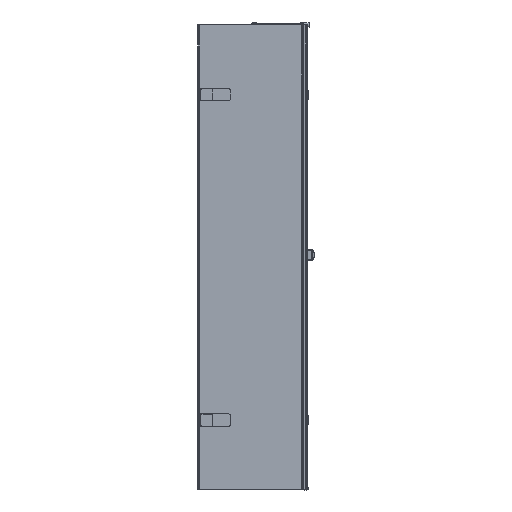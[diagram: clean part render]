
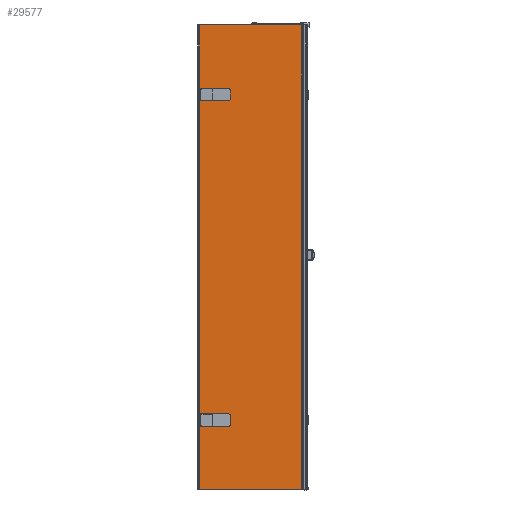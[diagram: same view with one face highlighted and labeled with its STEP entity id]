
A CAD part, left-side view. The second image highlights one B-rep face of the part: STEP entity #29577.
In plain terms, the highlighted planar face has unit normal (-1, 0, 0).
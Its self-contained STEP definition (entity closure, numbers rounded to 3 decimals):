
#495=LINE($,#41362,#3012);
#1831=LINE($,#62116,#4348);
#1834=LINE($,#62132,#4351);
#1837=LINE($,#62137,#4354);
#1840=LINE($,#62141,#4357);
#1841=LINE($,#62142,#4358);
#1876=LINE($,#62292,#4393);
#1899=LINE($,#62387,#4416);
#1921=LINE($,#62473,#4438);
#1922=LINE($,#62475,#4439);
#1923=LINE($,#62477,#4440);
#1924=LINE($,#62481,#4441);
#1925=LINE($,#62484,#4442);
#1926=LINE($,#62486,#4443);
#1927=LINE($,#62488,#4444);
#3012=VECTOR($,#33236,441.4);
#4348=VECTOR($,#37472,40.);
#4351=VECTOR($,#37489,40.);
#4354=VECTOR($,#37494,34.);
#4357=VECTOR($,#37499,26.);
#4358=VECTOR($,#37500,26.);
#4393=VECTOR($,#37589,1.019);
#4416=VECTOR($,#37652,1998.);
#4438=VECTOR($,#37744,26.);
#4439=VECTOR($,#37745,26.);
#4440=VECTOR($,#37746,40.);
#4441=VECTOR($,#37749,34.);
#4442=VECTOR($,#37752,40.);
#4443=VECTOR($,#37753,2000.);
#4444=VECTOR($,#37754,440.419);
#6335=PLANE($,#31945);
#6967=FACE_BOUND($,#9741,.T.);
#6968=FACE_BOUND($,#9742,.T.);
#6969=FACE_BOUND($,#9743,.T.);
#9741=EDGE_LOOP($,(#23108,#23109,#23110,#23111,#23112,#23113,#23114));
#9742=EDGE_LOOP($,(#23115,#23116,#23117,#23118,#23119,#23120,#23121));
#9743=EDGE_LOOP($,(#23122,#23123,#23124,#23125,#23126,#23127));
#11267=CIRCLE($,#31853,9.);
#11271=CIRCLE($,#31860,9.);
#11309=CIRCLE($,#31946,9.);
#11310=CIRCLE($,#31947,9.);
#11311=CIRCLE($,#31948,2.);
#11761=VERTEX_POINT($,#41359);
#11762=VERTEX_POINT($,#41361);
#13295=VERTEX_POINT($,#62106);
#13296=VERTEX_POINT($,#62108);
#13298=VERTEX_POINT($,#62114);
#13299=VERTEX_POINT($,#62118);
#13302=VERTEX_POINT($,#62125);
#13303=VERTEX_POINT($,#62127);
#13304=VERTEX_POINT($,#62131);
#13343=VERTEX_POINT($,#62282);
#13347=VERTEX_POINT($,#62290);
#13391=VERTEX_POINT($,#62471);
#13392=VERTEX_POINT($,#62472);
#13393=VERTEX_POINT($,#62474);
#13394=VERTEX_POINT($,#62476);
#13395=VERTEX_POINT($,#62478);
#13396=VERTEX_POINT($,#62480);
#13397=VERTEX_POINT($,#62482);
#13398=VERTEX_POINT($,#62485);
#13399=VERTEX_POINT($,#62487);
#14386=EDGE_CURVE($,#11761,#11762,#495,.T.);
#16671=EDGE_CURVE($,#13295,#13296,#11267,.T.);
#16675=EDGE_CURVE($,#13298,#13295,#1831,.T.);
#16680=EDGE_CURVE($,#13302,#13303,#11271,.T.);
#16682=EDGE_CURVE($,#13303,#13304,#1834,.T.);
#16685=EDGE_CURVE($,#13296,#13302,#1837,.T.);
#16688=EDGE_CURVE($,#13304,#13299,#1840,.T.);
#16689=EDGE_CURVE($,#13299,#13298,#1841,.T.);
#16742=EDGE_CURVE($,#13347,#13343,#1876,.T.);
#16776=EDGE_CURVE($,#11762,#13347,#1899,.T.);
#16817=EDGE_CURVE($,#13391,#13392,#1921,.T.);
#16818=EDGE_CURVE($,#13393,#13391,#1922,.T.);
#16819=EDGE_CURVE($,#13394,#13393,#1923,.T.);
#16820=EDGE_CURVE($,#13395,#13394,#11309,.T.);
#16821=EDGE_CURVE($,#13396,#13395,#1924,.T.);
#16822=EDGE_CURVE($,#13397,#13396,#11310,.T.);
#16823=EDGE_CURVE($,#13392,#13397,#1925,.T.);
#16824=EDGE_CURVE($,#13398,#11761,#1926,.T.);
#16825=EDGE_CURVE($,#13398,#13399,#1927,.T.);
#16826=EDGE_CURVE($,#13343,#13399,#11311,.T.);
#23108=ORIENTED_EDGE($,*,*,#16817,.F.);
#23109=ORIENTED_EDGE($,*,*,#16818,.F.);
#23110=ORIENTED_EDGE($,*,*,#16819,.F.);
#23111=ORIENTED_EDGE($,*,*,#16820,.F.);
#23112=ORIENTED_EDGE($,*,*,#16821,.F.);
#23113=ORIENTED_EDGE($,*,*,#16822,.F.);
#23114=ORIENTED_EDGE($,*,*,#16823,.F.);
#23115=ORIENTED_EDGE($,*,*,#16689,.F.);
#23116=ORIENTED_EDGE($,*,*,#16688,.F.);
#23117=ORIENTED_EDGE($,*,*,#16682,.F.);
#23118=ORIENTED_EDGE($,*,*,#16680,.F.);
#23119=ORIENTED_EDGE($,*,*,#16685,.F.);
#23120=ORIENTED_EDGE($,*,*,#16671,.F.);
#23121=ORIENTED_EDGE($,*,*,#16675,.F.);
#23122=ORIENTED_EDGE($,*,*,#16776,.F.);
#23123=ORIENTED_EDGE($,*,*,#14386,.F.);
#23124=ORIENTED_EDGE($,*,*,#16824,.F.);
#23125=ORIENTED_EDGE($,*,*,#16825,.T.);
#23126=ORIENTED_EDGE($,*,*,#16826,.F.);
#23127=ORIENTED_EDGE($,*,*,#16742,.F.);
#29577=ADVANCED_FACE($,(#6967,#6968,#6969),#6335,.F.);
#31853=AXIS2_PLACEMENT_3D($,#62109,#37465,#37466);
#31860=AXIS2_PLACEMENT_3D($,#62128,#37484,#37485);
#31945=AXIS2_PLACEMENT_3D($,#62470,#37742,#37743);
#31946=AXIS2_PLACEMENT_3D($,#62479,#37747,#37748);
#31947=AXIS2_PLACEMENT_3D($,#62483,#37750,#37751);
#31948=AXIS2_PLACEMENT_3D($,#62489,#37755,#37756);
#33236=DIRECTION($,(0.,-1.,0.));
#37465=DIRECTION('center_axis',(-1.,0.,0.));
#37466=DIRECTION('ref_axis',(0.,-0.707,-0.707));
#37472=DIRECTION($,(0.,-1.,0.));
#37484=DIRECTION('center_axis',(-1.,0.,0.));
#37485=DIRECTION('ref_axis',(0.,-0.707,0.707));
#37489=DIRECTION($,(0.,1.,0.));
#37494=DIRECTION($,(0.,0.,1.));
#37499=DIRECTION($,(0.,0.,-1.));
#37500=DIRECTION($,(0.,0.,-1.));
#37589=DIRECTION($,(0.,-1.,0.));
#37652=DIRECTION($,(0.,0.,-1.));
#37742=DIRECTION('center_axis',(1.,0.,0.));
#37743=DIRECTION('ref_axis',(0.,-1.,0.));
#37744=DIRECTION($,(0.,0.,-1.));
#37745=DIRECTION($,(0.,0.,-1.));
#37746=DIRECTION($,(0.,1.,0.));
#37747=DIRECTION('center_axis',(-1.,0.,0.));
#37748=DIRECTION('ref_axis',(0.,-0.707,0.707));
#37749=DIRECTION($,(0.,0.,1.));
#37750=DIRECTION('center_axis',(-1.,0.,0.));
#37751=DIRECTION('ref_axis',(0.,-0.707,-0.707));
#37752=DIRECTION($,(0.,-1.,0.));
#37753=DIRECTION($,(0.,0.,1.));
#37754=DIRECTION($,(0.,-1.,0.));
#37755=DIRECTION('center_axis',(-1.,0.,0.));
#37756=DIRECTION('ref_axis',(0.,0.707,0.707));
#41359=CARTESIAN_POINT('',(1404.59,366.875,1485.944));
#41361=CARTESIAN_POINT('',(1404.59,-74.525,1485.944));
#41362=CARTESIAN_POINT($,(1404.59,371.875,1485.944));
#62106=CARTESIAN_POINT('',(1404.59,243.875,1159.944));
#62108=CARTESIAN_POINT('',(1404.59,234.875,1168.944));
#62109=CARTESIAN_POINT('Origin',(1404.59,243.875,1168.944));
#62114=CARTESIAN_POINT('',(1404.59,283.875,1159.944));
#62116=CARTESIAN_POINT($,(1404.59,327.875,1159.944));
#62118=CARTESIAN_POINT('',(1404.59,283.875,1185.944));
#62125=CARTESIAN_POINT('',(1404.59,234.875,1202.944));
#62127=CARTESIAN_POINT('',(1404.59,243.875,1211.944));
#62128=CARTESIAN_POINT('Origin',(1404.59,243.875,1202.944));
#62131=CARTESIAN_POINT('',(1404.59,283.875,1211.944));
#62132=CARTESIAN_POINT($,(1404.59,316.375,1211.944));
#62137=CARTESIAN_POINT($,(1404.59,234.875,1348.944));
#62141=CARTESIAN_POINT($,(1404.59,283.875,1348.944));
#62142=CARTESIAN_POINT($,(1404.59,283.875,1348.944));
#62282=CARTESIAN_POINT('',(1404.59,-75.544,-512.056));
#62290=CARTESIAN_POINT('',(1404.59,-74.525,-512.056));
#62292=CARTESIAN_POINT($,(1404.59,146.968,-512.056));
#62387=CARTESIAN_POINT($,(1404.59,-74.525,1485.944));
#62470=CARTESIAN_POINT('Origin',(1404.59,371.875,1485.944));
#62471=CARTESIAN_POINT('',(1404.59,283.875,-214.056));
#62472=CARTESIAN_POINT('',(1404.59,283.875,-240.056));
#62473=CARTESIAN_POINT($,(1404.59,283.875,648.944));
#62474=CARTESIAN_POINT('',(1404.59,283.875,-188.056));
#62475=CARTESIAN_POINT($,(1404.59,283.875,648.944));
#62476=CARTESIAN_POINT('',(1404.59,243.875,-188.056));
#62477=CARTESIAN_POINT($,(1404.59,316.375,-188.056));
#62478=CARTESIAN_POINT('',(1404.59,234.875,-197.056));
#62479=CARTESIAN_POINT('Origin',(1404.59,243.875,-197.056));
#62480=CARTESIAN_POINT('',(1404.59,234.875,-231.056));
#62481=CARTESIAN_POINT($,(1404.59,234.875,648.944));
#62482=CARTESIAN_POINT('',(1404.59,243.875,-240.056));
#62483=CARTESIAN_POINT('Origin',(1404.59,243.875,-231.056));
#62484=CARTESIAN_POINT($,(1404.59,327.875,-240.056));
#62485=CARTESIAN_POINT('',(1404.59,366.875,-514.056));
#62486=CARTESIAN_POINT($,(1404.59,366.875,485.944));
#62487=CARTESIAN_POINT('',(1404.59,-73.544,-514.056));
#62488=CARTESIAN_POINT($,(1404.59,371.875,-514.056));
#62489=CARTESIAN_POINT('Origin',(1404.59,-75.544,-514.056));
